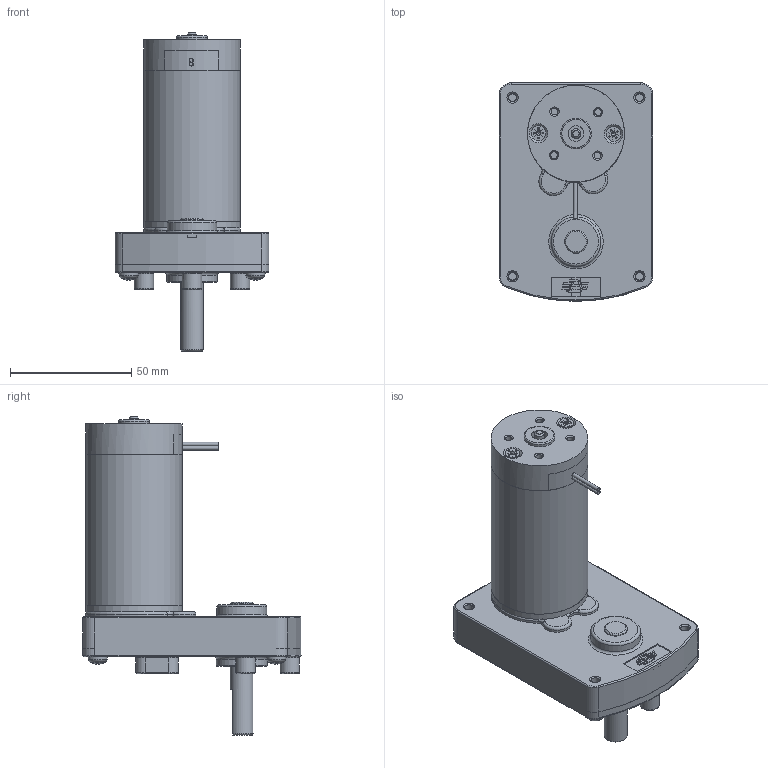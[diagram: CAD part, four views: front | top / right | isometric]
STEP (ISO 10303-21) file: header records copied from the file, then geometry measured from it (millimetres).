
FILE_DESCRIPTION(/* description */ (''),/* implementation_level */ '2;1');
FILE_NAME(/* name */ 'C:\Users\byjeong\Desktop\3D도면\SR46BL.stp',/* time_stamp */ '2015-03-31T15:08:12+09:00',/* author */ ('byjeong'),/* organization */ (''),/* preprocessor_version */ 'ST-DEVELOPER v15.6',/* originating_system */ 'Autodesk Inventor 2015',/* authorisation */ '');
FILE_SCHEMA (('AUTOMOTIVE_DESIGN { 1 0 10303 214 3 1 1 }'));
Length unit declared in the file: millimetre
Products named in the file (10): SR BOX ASSY; RM4TYPE_FRONT_HOUSING_; RM4TYPE_PIPE_HOUSING_pi40XL62.4; RM46TYPE_SHAFT; AS 1427 Z - 미터 M3.5 x 5; RM4TYPE_BRUSH_BRAKET_LEAD; RM4TYPE_REAR_HOUSING; REAR_HOUSING__ASS'Y_LEAD; RM46ㅁBL; 조립품2
Bounding box: 63.5 x 90.13 x 131.37 mm (x, y, z)
Volume: 73225.3 mm3; surface area: 61888.2 mm2
Topology: 11 solids, 20 shells, 629 faces, 1527 edges, 971 vertices
Faces by surface type: plane 269, cylinder 159, cone 128, torus 68, sphere 4, bspline 1
Full cylindrical faces by diameter (mm): 1.6 x2, 2.5 x1, 2.7 x4, 2.8 x4, 3 x3, 3.132 x2, 3.4 x7, 3.5 x2, 3.571 x4, 3.6 x6, 3.7 x2, 3.969 x1, 4 x8, 4.4 x6, 4.45 x1, 5 x1, 6.1 x2, 6.5 x1, 6.65 x1, 8 x3, 9.525 x2, 9.528 x1, 9.565 x2, 12.7 x3, 14.3 x3, 16.6 x1, 17.6 x1, 20.5 x1, 21 x1, 23 x1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
Entity records: 17239 total; most frequent: CARTESIAN_POINT 4040, DIRECTION 2826, ORIENTED_EDGE 2450, EDGE_CURVE 1220, AXIS2_PLACEMENT_3D 1175, VERTEX_POINT 863, EDGE_LOOP 826, FACE_OUTER_BOUND 588
